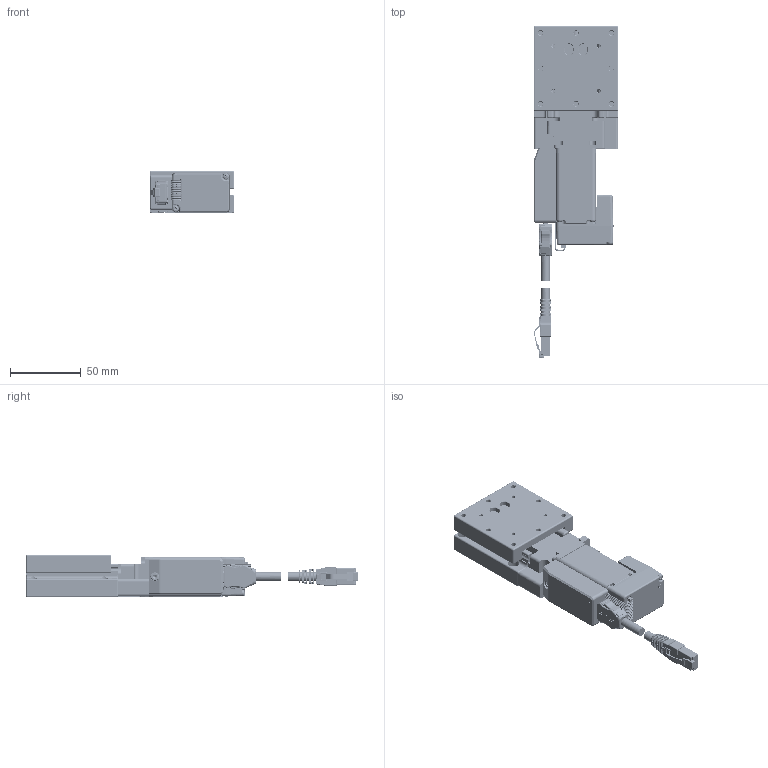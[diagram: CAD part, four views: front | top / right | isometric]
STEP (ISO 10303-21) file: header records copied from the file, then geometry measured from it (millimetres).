
FILE_DESCRIPTION(/* description */ (''),/* implementation_level */ '2;1');
FILE_NAME(/* name */ 'CXS6020-EzI-SERVO ALL-28M',/* time_stamp */ '2022-08-24T21:09:47+02:00',/* author */ (''),/* organization */ (''),/* preprocessor_version */ 'ST-DEVELOPER v16.7',/* originating_system */ 'Solid Edge',/* authorisation */ 'Unknown');
FILE_SCHEMA (('AUTOMOTIVE_DESIGN {1 0 10303 214 3 1 1}'));
Products named in the file (28): CXS6020-EzI-SERVO ALL-28M; CXS6020; Group1^CXS6020-S-模糊化; Group3^CXS6020-S-模糊化; 09451819000_100744258MOD000C; 09451511525_100534264MOD000A; Motorflansch-ix-001; ISO 4762_M2,5x5_8.8; ISO 4762_M3x10_8.8; EzI-SERVO ALL-28L; M16-EC-028-02-R00; M16-EC-028-01-R00; PCB-1-04; PCB-2-04; M1L-EC-028-03-R00; pan cross head_ks_KS 1023 PC- M2.5 x 8-N; BM12B-GHS-TBT; Condensador 10_17.5; 20PS-JMCS-G-1B-TF(N); 20R-JMCS-G-B-TF(NSA); M1L-MO-028-03-R01; JST-GHR-12V-S_with_terminals; JST_GHR-CONTACT; JST_GHR-12V-S; Gehäuse-ix-001; Platine-ix-001; PCB ix Industrial-001; 09452819001
Assembly tree (39 placements, depth 4):
  CXS6020-EzI-SERVO ALL-28M
    CXS6020
      Group1^CXS6020-S-模糊化
      Group3^CXS6020-S-模糊化
    09451819000_100744258MOD000C
    09451511525_100534264MOD000A
    Motorflansch-ix-001
    ISO 4762_M2,5x5_8.8
    ISO 4762_M3x10_8.8
    EzI-SERVO ALL-28L
      M16-EC-028-02-R00
      M16-EC-028-01-R00
      PCB-1-04
      PCB-2-04
      M1L-EC-028-03-R00
      pan cross head_ks_KS 1023 PC- M2.5 x 8-N  x2
      BM12B-GHS-TBT
      Condensador 10_17.5
      20PS-JMCS-G-1B-TF(N)
      20R-JMCS-G-B-TF(NSA)
      M1L-MO-028-03-R01
      JST-GHR-12V-S_with_terminals
        JST_GHR-CONTACT  x12
        JST_GHR-12V-S
    Gehäuse-ix-001
    Platine-ix-001
      PCB ix Industrial-001
      09452819001
Bounding box: 60 x 234.43 x 30 mm (x, y, z)
Volume: 166083.6 mm3; surface area: 86621.7 mm2
Topology: 40 solids, 42 shells, 9140 faces, 25430 edges, 16512 vertices
Faces by surface type: plane 6107, cylinder 2066, bspline 583, torus 180, cone 125, sphere 79
Full cylindrical faces by diameter (mm): 0.279 x1, 0.4 x2, 0.5 x14, 0.7 x3, 0.9 x54, 1 x36, 1.4 x54, 1.45 x2, 1.75 x2, 2.013 x2, 2.05 x6, 2.459 x1, 2.5 x7, 2.8 x4, 3 x2, 3.2 x1, 3.3 x8, 3.5 x1, 3.8 x1, 4.5 x4, 4.68 x1, 5 x2, 5.5 x2, 6 x2, 6.2 x1, 6.3 x1, 6.4 x1, 7.8 x4, 8 x2, 8.2 x1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
Entity records: 308994 total; most frequent: CARTESIAN_POINT 81933, ORIENTED_EDGE 42446, DIRECTION 36864, EDGE_CURVE 21253, LINE 16614, VECTOR 16614, VERTEX_POINT 14087, AXIS2_PLACEMENT_3D 10125
